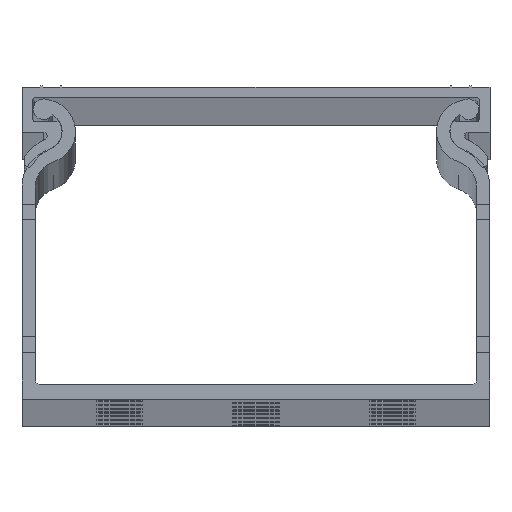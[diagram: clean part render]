
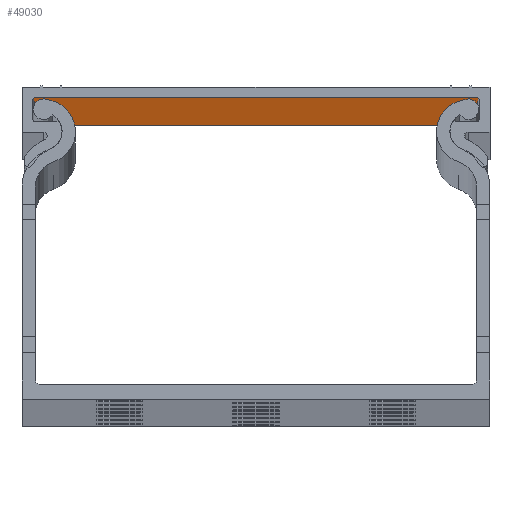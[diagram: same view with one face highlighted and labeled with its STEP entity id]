
A CAD part, top view. The second image highlights one B-rep face of the part: STEP entity #49030.
In plain terms, the highlighted planar face has unit normal (0, -1, 0).
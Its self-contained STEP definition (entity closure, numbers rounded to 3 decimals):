
#949 = VERTEX_POINT ( 'NONE', #23111 ) ;
#2137 = ORIENTED_EDGE ( 'NONE', *, *, #12500, .T. ) ;
#2561 = VERTEX_POINT ( 'NONE', #12796 ) ;
#3526 = CARTESIAN_POINT ( 'NONE',  ( 2568.407, 1295.656, 0. ) ) ;
#5341 = LINE ( 'NONE', #62822, #47887 ) ;
#5441 = DIRECTION ( 'NONE',  ( 1., 0., 0. ) ) ;
#7325 = DIRECTION ( 'NONE',  ( 0., 0., -1. ) ) ;
#7418 = ORIENTED_EDGE ( 'NONE', *, *, #49339, .F. ) ;
#8003 = VERTEX_POINT ( 'NONE', #66829 ) ;
#10194 = ORIENTED_EDGE ( 'NONE', *, *, #32536, .F. ) ;
#10282 = ORIENTED_EDGE ( 'NONE', *, *, #47494, .T. ) ;
#12500 = EDGE_CURVE ( 'NONE', #949, #2561, #50724, .T. ) ;
#12796 = CARTESIAN_POINT ( 'NONE',  ( 2596.807, 1295.656, 0. ) ) ;
#14695 = VECTOR ( 'NONE', #22134, 1000. ) ;
#22134 = DIRECTION ( 'NONE',  ( 0., 0., -1. ) ) ;
#23111 = CARTESIAN_POINT ( 'NONE',  ( 2540.007, 1295.656, 0. ) ) ;
#31059 = CARTESIAN_POINT ( 'NONE',  ( 2568.407, 1295.656, 2000. ) ) ;
#31905 = CARTESIAN_POINT ( 'NONE',  ( 2540.007, 1295.656, 2000. ) ) ;
#32536 = EDGE_CURVE ( 'NONE', #8003, #65902, #5341, .T. ) ;
#35092 = LINE ( 'NONE', #31905, #14695 ) ;
#35523 = AXIS2_PLACEMENT_3D ( 'NONE', #31059, #46868, #42276 ) ;
#35756 = VECTOR ( 'NONE', #7325, 1000. ) ;
#38269 = FACE_OUTER_BOUND ( 'NONE', #57438, .T. ) ;
#41012 = CARTESIAN_POINT ( 'NONE',  ( 2596.807, 1295.656, 2000. ) ) ;
#42276 = DIRECTION ( 'NONE',  ( 0., 0., 1. ) ) ;
#46868 = DIRECTION ( 'NONE',  ( 0., 1., 0. ) ) ;
#47494 = EDGE_CURVE ( 'NONE', #8003, #949, #35092, .T. ) ;
#47887 = VECTOR ( 'NONE', #5441, 1000. ) ;
#49030 = ADVANCED_FACE ( 'NONE', ( #38269 ), #52341, .F. ) ;
#49339 = EDGE_CURVE ( 'NONE', #65902, #2561, #57062, .T. ) ;
#49788 = CARTESIAN_POINT ( 'NONE',  ( 2596.807, 1295.656, 2000. ) ) ;
#50724 = LINE ( 'NONE', #3526, #53150 ) ;
#52341 = PLANE ( 'NONE',  #35523 ) ;
#53150 = VECTOR ( 'NONE', #55625, 1000. ) ;
#55625 = DIRECTION ( 'NONE',  ( 1., 0., 0. ) ) ;
#57062 = LINE ( 'NONE', #49788, #35756 ) ;
#57438 = EDGE_LOOP ( 'NONE', ( #2137, #7418, #10194, #10282 ) ) ;
#62822 = CARTESIAN_POINT ( 'NONE',  ( 2568.407, 1295.656, 2000. ) ) ;
#65902 = VERTEX_POINT ( 'NONE', #41012 ) ;
#66829 = CARTESIAN_POINT ( 'NONE',  ( 2540.007, 1295.656, 2000. ) ) ;
